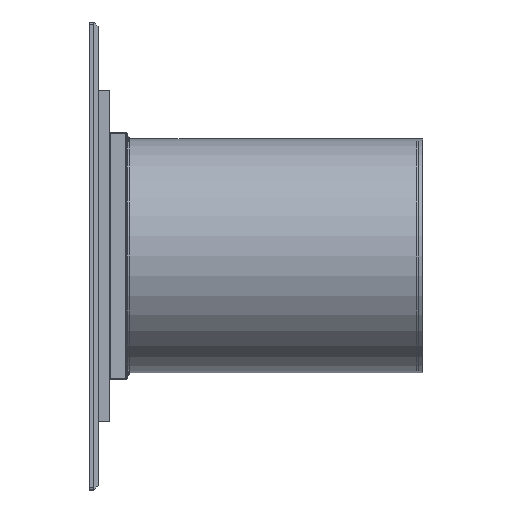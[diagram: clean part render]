
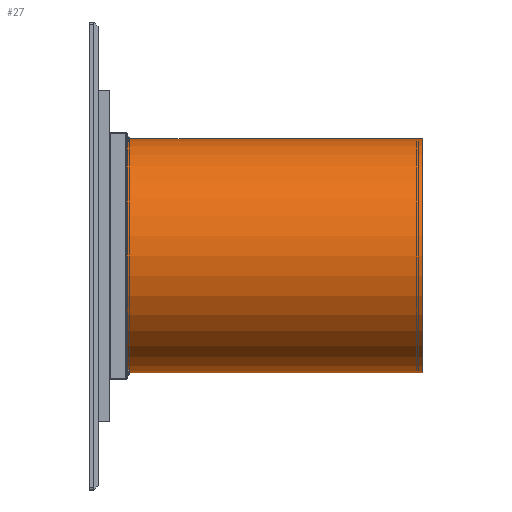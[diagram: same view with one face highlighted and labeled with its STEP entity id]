
A CAD part, left-side view. The second image highlights one B-rep face of the part: STEP entity #27.
In plain terms, the highlighted cylindrical face has radius 265 mm (diameter 530 mm), a partial arc.
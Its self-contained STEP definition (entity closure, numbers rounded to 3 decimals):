
#27 = ADVANCED_FACE ( 'NONE', ( #16890 ), #2125, .T. ) ;
#793 = AXIS2_PLACEMENT_3D ( 'NONE', #7469, #17067, #9976 ) ;
#895 = DIRECTION ( 'NONE',  ( 0., -1., 0. ) ) ;
#1039 = DIRECTION ( 'NONE',  ( 0., -1., 0. ) ) ;
#1206 = CARTESIAN_POINT ( 'NONE',  ( 0., 0., 265. ) ) ;
#1367 = DIRECTION ( 'NONE',  ( 0., 1., 0. ) ) ;
#1932 = VERTEX_POINT ( 'NONE', #2141 ) ;
#2046 = EDGE_CURVE ( 'NONE', #6139, #7546, #12066, .T. ) ;
#2125 = CYLINDRICAL_SURFACE ( 'NONE', #793, 265. ) ;
#2141 = CARTESIAN_POINT ( 'NONE',  ( 0., 670., -265. ) ) ;
#3596 = CIRCLE ( 'NONE', #14500, 265. ) ;
#4719 = ORIENTED_EDGE ( 'NONE', *, *, #17422, .T. ) ;
#6139 = VERTEX_POINT ( 'NONE', #10585 ) ;
#6479 = DIRECTION ( 'NONE',  ( 0., 0., 1. ) ) ;
#6647 = CARTESIAN_POINT ( 'NONE',  ( 0., 670., -265. ) ) ;
#6703 = CARTESIAN_POINT ( 'NONE',  ( 0., 0., 0. ) ) ;
#6812 = VECTOR ( 'NONE', #1039, 1000. ) ;
#7469 = CARTESIAN_POINT ( 'NONE',  ( 0., 670., 0. ) ) ;
#7546 = VERTEX_POINT ( 'NONE', #1206 ) ;
#8107 = ORIENTED_EDGE ( 'NONE', *, *, #16366, .F. ) ;
#9115 = VECTOR ( 'NONE', #895, 1000. ) ;
#9426 = LINE ( 'NONE', #6647, #6812 ) ;
#9591 = EDGE_LOOP ( 'NONE', ( #16374, #8107, #15053, #4719 ) ) ;
#9976 = DIRECTION ( 'NONE',  ( 0., 0., -1. ) ) ;
#10585 = CARTESIAN_POINT ( 'NONE',  ( 0., 670., 265. ) ) ;
#10920 = DIRECTION ( 'NONE',  ( 0., 0., 1. ) ) ;
#11109 = CIRCLE ( 'NONE', #12549, 265. ) ;
#11788 = CARTESIAN_POINT ( 'NONE',  ( 0., 670., 0. ) ) ;
#12066 = LINE ( 'NONE', #15004, #9115 ) ;
#12152 = CARTESIAN_POINT ( 'NONE',  ( 0., 0., -265. ) ) ;
#12549 = AXIS2_PLACEMENT_3D ( 'NONE', #6703, #1367, #10920 ) ;
#14479 = VERTEX_POINT ( 'NONE', #12152 ) ;
#14500 = AXIS2_PLACEMENT_3D ( 'NONE', #11788, #14656, #6479 ) ;
#14656 = DIRECTION ( 'NONE',  ( 0., 1., 0. ) ) ;
#14882 = EDGE_CURVE ( 'NONE', #1932, #14479, #9426, .T. ) ;
#15004 = CARTESIAN_POINT ( 'NONE',  ( 0., 670., 265. ) ) ;
#15053 = ORIENTED_EDGE ( 'NONE', *, *, #14882, .T. ) ;
#16366 = EDGE_CURVE ( 'NONE', #1932, #6139, #3596, .T. ) ;
#16374 = ORIENTED_EDGE ( 'NONE', *, *, #2046, .F. ) ;
#16890 = FACE_OUTER_BOUND ( 'NONE', #9591, .T. ) ;
#17067 = DIRECTION ( 'NONE',  ( 0., -1., 0. ) ) ;
#17422 = EDGE_CURVE ( 'NONE', #14479, #7546, #11109, .T. ) ;
